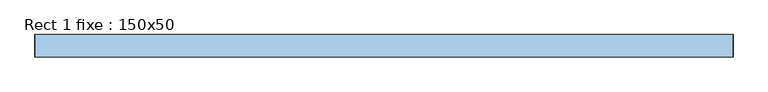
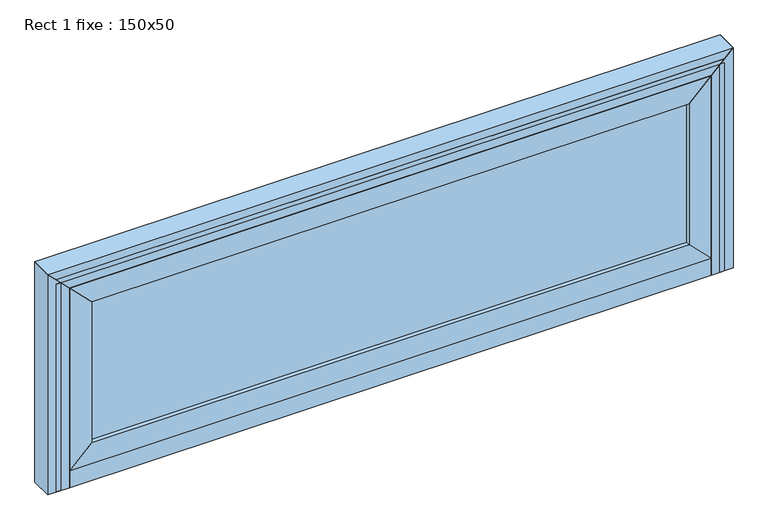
"""IFC4 building model written with IfcOpenShell, lengths in millimetres: window geometry, Rect 1 fixe : 150x50."""

from ifc_helpers import new_model, si_unit, frame, origin, place, context, project, spatial, polyline, outline, extrude, faceted_brep, source, transform, mapped, element, save


def rect_1_fixe_150x50_26ae5af5(model_context):
    return source(origin(), model_context, "Body", "SolidModel", [
        extrude(outline(polyline([(1840.0, 680.0), (1840.0, -680.0), (1790.0, -730.0), (1790.0, 730.0), (1840.0, 680.0)])), frame((0.0, -150.0, 0.0), z_axis=(0.0, 1.0, 0.0), x_axis=(0.0, 0.0, 1.0)), (0.0, 0.0, 1.0), 40.0),
        extrude(outline(polyline([(2180.0, 680.0), (1840.0, 680.0), (1790.0, 730.0), (2230.0, 730.0), (2180.0, 680.0)])), frame((0.0, -150.0, 0.0), z_axis=(0.0, 1.0, 0.0), x_axis=(0.0, 0.0, 1.0)), (0.0, 0.0, 1.0), 40.0),
        extrude(outline(polyline([(1840.0, -680.0), (2180.0, -680.0), (2230.0, -730.0), (1790.0, -730.0), (1840.0, -680.0)])), frame((0.0, -150.0, 0.0), z_axis=(0.0, 1.0, 0.0), x_axis=(0.0, 0.0, 1.0)), (0.0, 0.0, 1.0), 40.0),
        extrude(outline(polyline([(-680.0, -140.0), (-680.0, -120.0), (680.0, -120.0), (680.0, -140.0), (-680.0, -140.0)])), frame((0.0, 0.0, 1840.0), z_axis=(0.0, 0.0, 1.0), x_axis=(1.0, 0.0, 0.0)), (0.0, 0.0, 1.0), 340.0),
        extrude(outline(polyline([(2180.0, -680.0), (2180.0, 680.0), (2230.0, 730.0), (2230.0, -730.0), (2180.0, -680.0)])), frame((0.0, -150.0, 0.0), z_axis=(0.0, 1.0, 0.0), x_axis=(0.0, 0.0, 1.0)), (0.0, 0.0, 1.0), 40.0),
        faceted_brep([(-730.0, -100.0, 1790.0), (-730.0, -100.0, 1789.7190155), (-730.0, -140.0, 1780.0), (-730.0, -140.0, 1750.0), (-730.0, -150.0, 1750.0), (-730.0, -150.0, 1790.0), (730.0, -150.0, 1750.0), (730.0, -140.0, 1750.0), (730.0, -140.0, 1780.0), (730.0, -100.0, 1789.7190155), (730.0, -100.0, 1790.0), (730.0, -150.0, 1790.0), (-750.0, -140.0, 1750.0), (-750.0, -100.0, 1750.0), (750.0, -100.0, 1750.0), (750.0, -140.0, 1750.0), (750.0, -100.0, 1789.7190155), (-750.0, -100.0, 1789.7190155), (-750.0, -140.0, 1780.0), (750.0, -140.0, 1780.0)], [[[0, 1, 2, 3, 4, 5]], [[6, 7, 8, 9, 10, 11]], [[5, 11, 10, 0]], [[4, 6, 11, 5]], [[4, 3, 12, 13, 14, 15, 7, 6]], [[10, 9, 16, 14, 13, 17, 1, 0]], [[13, 12, 18, 17]], [[14, 16, 19, 15]], [[16, 9, 8, 19]], [[18, 2, 1, 17]], [[12, 3, 2, 18]], [[19, 8, 7, 15]]]),
        extrude(outline(polyline([(760.0, -100.0), (760.0, -150.0), (750.0, -150.0), (750.0, -100.0), (760.0, -100.0)])), frame((0.0, 0.0, 1750.0), z_axis=(0.0, 0.0, 1.0), x_axis=(1.0, 0.0, 0.0)), (0.0, 0.0, 1.0), 500.0),
        extrude(outline(polyline([(-760.0, -100.0), (-750.0, -100.0), (-750.0, -150.0), (-760.0, -150.0), (-760.0, -100.0)])), frame((0.0, 0.0, 1750.0), z_axis=(0.0, 0.0, 1.0), x_axis=(1.0, 0.0, 0.0)), (0.0, 0.0, 1.0), 500.0),
        extrude(outline(polyline([(2280.0, 780.0), (2230.0, 730.0), (1750.0, 730.0), (1750.0, 780.0), (2280.0, 780.0)])), frame((0.0, -150.0, 0.0), z_axis=(0.0, 1.0, 0.0), x_axis=(0.0, 0.0, 1.0)), (0.0, 0.0, 1.0), 50.0),
        extrude(outline(polyline([(2280.0, -780.0), (1750.0, -780.0), (1750.0, -730.0), (2230.0, -730.0), (2280.0, -780.0)])), frame((0.0, -150.0, 0.0), z_axis=(0.0, 1.0, 0.0), x_axis=(0.0, 0.0, 1.0)), (0.0, 0.0, 1.0), 50.0),
        extrude(outline(polyline([(-760.0, -100.0), (760.0, -100.0), (760.0, -150.0), (-760.0, -150.0), (-760.0, -100.0)])), frame((0.0, 0.0, 2250.0), z_axis=(0.0, 0.0, 1.0), x_axis=(1.0, 0.0, 0.0)), (0.0, 0.0, 1.0), 10.0),
        extrude(outline(polyline([(2280.0, 780.0), (2280.0, -780.0), (2230.0, -730.0), (2230.0, 730.0), (2280.0, 780.0)])), frame((0.0, -150.0, 0.0), z_axis=(0.0, 1.0, 0.0), x_axis=(0.0, 0.0, 1.0)), (0.0, 0.0, 1.0), 50.0),
    ])


if __name__ == "__main__":
    model = new_model("IFC4")
    model_context = context("Model", 3, world=origin())
    ifc_project = project(units=[si_unit("LENGTHUNIT", "METRE", prefix="MILLI")], contexts=[model_context])
    site = spatial("IfcSite", under=ifc_project)
    building = spatial("IfcBuilding", under=site)
    placement = place(None, origin())
    rect_1_fixe_150x50_shape = rect_1_fixe_150x50_26ae5af5(model_context)
    element("IfcWindow", 1, ObjectType="Rect 1 fixe : 150x50", at=placement, inside=building, context=model_context, shape_type="MappedRepresentation", body=[
        mapped(rect_1_fixe_150x50_shape, transform((0.0, 0.0, 0.0), x_axis=(1.0, 0.0, 0.0), y_axis=(0.0, 1.0, 0.0), z_axis=(0.0, 0.0, 1.0))),
    ])
    save(model, "model.ifc")
